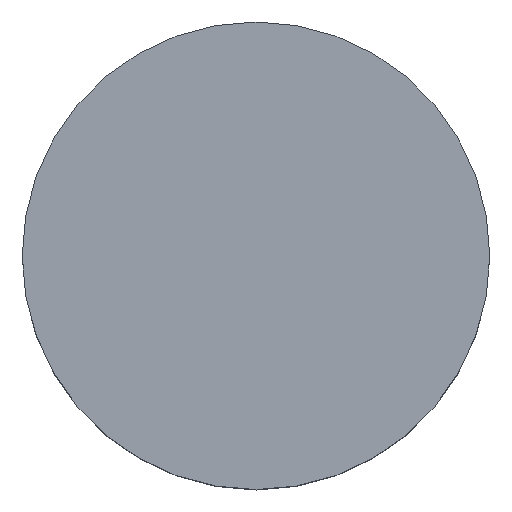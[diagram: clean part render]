
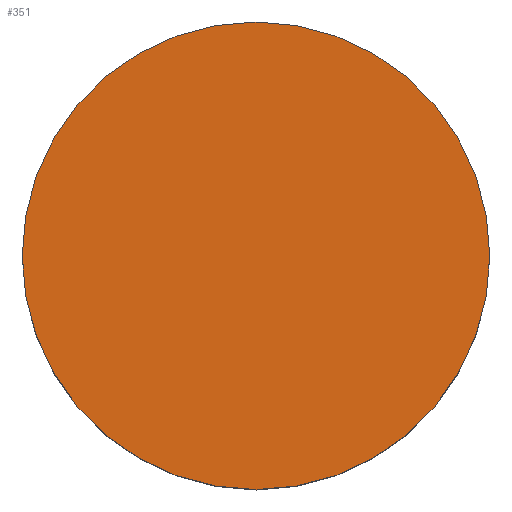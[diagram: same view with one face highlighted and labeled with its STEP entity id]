
A CAD part, top view. The second image highlights one B-rep face of the part: STEP entity #351.
In plain terms, the highlighted planar face has unit normal (0, 0, 1).
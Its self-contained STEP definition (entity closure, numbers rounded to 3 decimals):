
#36=PLANE('',#419);
#90=FACE_OUTER_BOUND('',#133,.T.);
#133=EDGE_LOOP('',(#294));
#175=CIRCLE('',#418,28.);
#205=VERTEX_POINT('',#638);
#239=EDGE_CURVE('',#205,#205,#175,.T.);
#294=ORIENTED_EDGE('',*,*,#239,.T.);
#351=ADVANCED_FACE('',(#90),#36,.T.);
#418=AXIS2_PLACEMENT_3D('',#639,#541,#542);
#419=AXIS2_PLACEMENT_3D('',#640,#543,#544);
#541=DIRECTION('center_axis',(0.,0.,1.));
#542=DIRECTION('ref_axis',(-1.,0.,0.));
#543=DIRECTION('center_axis',(0.,0.,1.));
#544=DIRECTION('ref_axis',(1.,0.,0.));
#638=CARTESIAN_POINT('',(28.,0.,31.));
#639=CARTESIAN_POINT('Origin',(0.,0.,31.));
#640=CARTESIAN_POINT('Origin',(0.,0.,31.));
